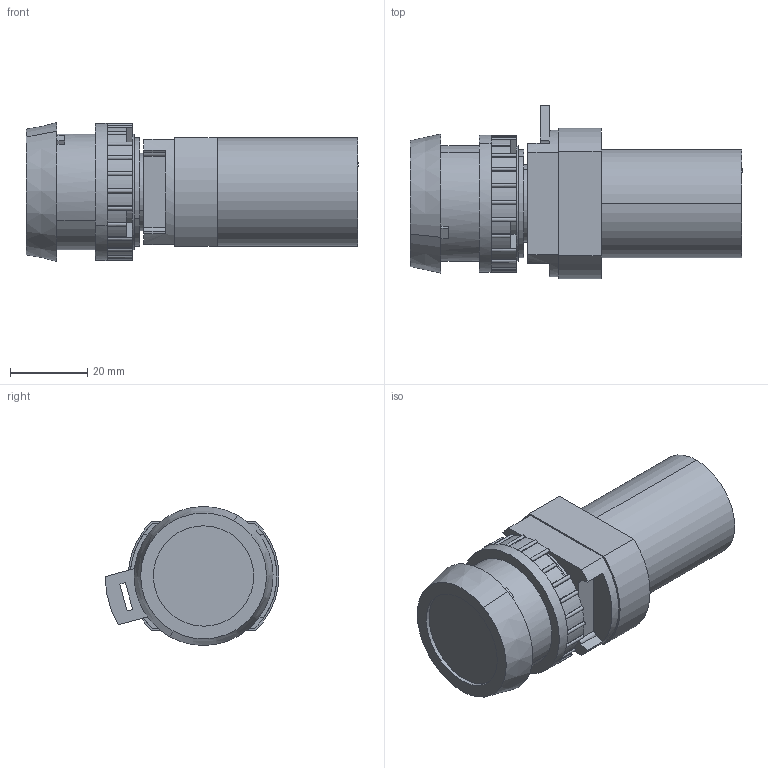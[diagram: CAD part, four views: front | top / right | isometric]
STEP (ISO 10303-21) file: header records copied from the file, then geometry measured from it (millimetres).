
FILE_DESCRIPTION (( 'STEP AP214' ), '1' );
FILE_NAME ('18-T-30-011---T-30-510_Airtec.step', '2018-11-15T12:47:07', ( '' ), ( '' ), 'SwSTEP 2.0', 'SolidWorks 2010', '' );
FILE_SCHEMA (( 'AUTOMOTIVE_DESIGN' ));
Length unit declared in the file: millimetre
Products named in the file (3): 18-T-30-011-Airtec; T-30-510-Airtec; 18-T-30-011---T-30-510_Airtec
Assembly tree (2 placements, depth 2):
  18-T-30-011---T-30-510_Airtec
    T-30-510-Airtec
    18-T-30-011-Airtec
Bounding box: 86 x 45 x 36 mm (x, y, z)
Volume: 61361.9 mm3; surface area: 15950.6 mm2
Topology: 2 solids, 2 shells, 393 faces, 1072 edges, 693 vertices
Faces by surface type: plane 212, cylinder 167, cone 14
Entity records: 12541 total; most frequent: DIRECTION 2269, CARTESIAN_POINT 2153, ORIENTED_EDGE 2124, EDGE_CURVE 1062, AXIS2_PLACEMENT_3D 809, VERTEX_POINT 693, LINE 651, VECTOR 651
